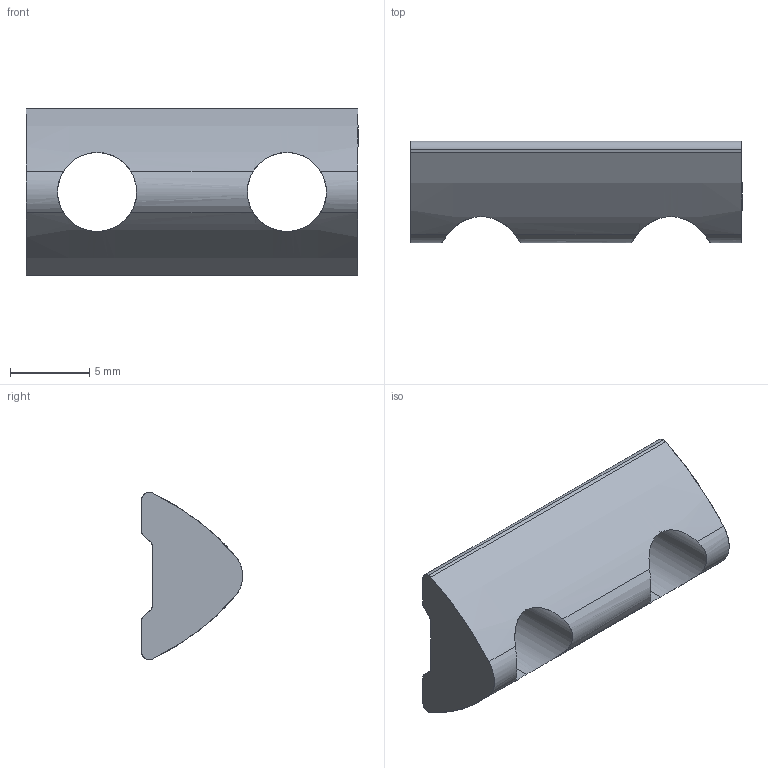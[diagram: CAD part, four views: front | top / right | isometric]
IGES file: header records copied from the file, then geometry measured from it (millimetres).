
Start section: SolidWorks IGES file using analytic representation for surfaces
Global section: file name: C:\Documents and Settings\CAD53\デスクトップ\IGES\N01914-102-1.IGS; native system: SolidWorks 2005 by SolidWorks Corporation; preprocessor: SolidWorks 2005 by SolidWorks Corporation; author: CAD53; date: 070530.093218; units: millimetre
Bounding box: 21 x 6.4 x 10.6 mm (x, y, z)
Surface area: 743.9 mm2 (no closed solid volume)
Topology: 0 solids, 0 shells, 29 faces, 412 edges, 412 vertices
Faces by surface type: revolution 20, bspline 9
